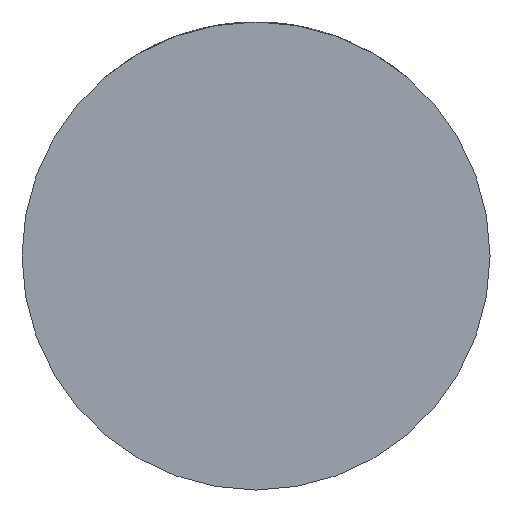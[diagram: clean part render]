
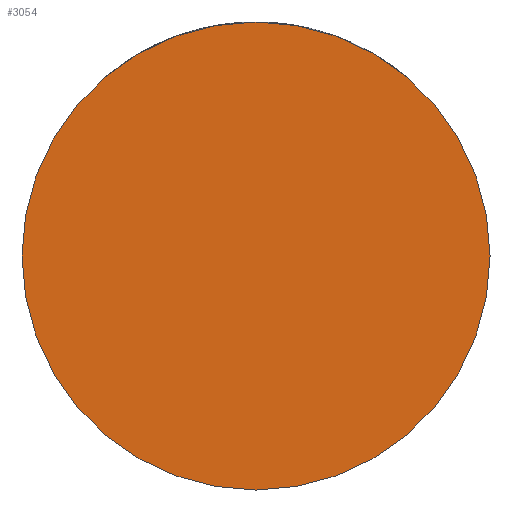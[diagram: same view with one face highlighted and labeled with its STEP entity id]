
A CAD part, front view. The second image highlights one B-rep face of the part: STEP entity #3054.
In plain terms, the highlighted planar face has unit normal (0, -1, 0).
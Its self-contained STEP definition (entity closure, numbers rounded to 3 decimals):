
#8 = PLANE ( 'NONE',  #3587 ) ;
#252 = CARTESIAN_POINT ( 'NONE',  ( 49., -45., 0. ) ) ;
#594 = VERTEX_POINT ( 'NONE', #4443 ) ;
#675 = DIRECTION ( 'NONE',  ( 0., -1., 0. ) ) ;
#982 = DIRECTION ( 'NONE',  ( 0., -1., 0. ) ) ;
#1042 = EDGE_CURVE ( 'NONE', #594, #1148, #3383, .T. ) ;
#1060 = CIRCLE ( 'NONE', #1437, 49. ) ;
#1148 = VERTEX_POINT ( 'NONE', #252 ) ;
#1294 = DIRECTION ( 'NONE',  ( 1., 0., 0. ) ) ;
#1437 = AXIS2_PLACEMENT_3D ( 'NONE', #1711, #2422, #1294 ) ;
#1711 = CARTESIAN_POINT ( 'NONE',  ( 0., -45., 0. ) ) ;
#2422 = DIRECTION ( 'NONE',  ( 0., -1., 0. ) ) ;
#2461 = DIRECTION ( 'NONE',  ( 1., 0., 0. ) ) ;
#2532 = CARTESIAN_POINT ( 'NONE',  ( 0., -45., 0. ) ) ;
#2759 = ORIENTED_EDGE ( 'NONE', *, *, #2963, .T. ) ;
#2817 = EDGE_LOOP ( 'NONE', ( #3531, #2759 ) ) ;
#2963 = EDGE_CURVE ( 'NONE', #1148, #594, #1060, .T. ) ;
#3054 = ADVANCED_FACE ( 'NONE', ( #3224 ), #8, .T. ) ;
#3224 = FACE_OUTER_BOUND ( 'NONE', #2817, .T. ) ;
#3383 = CIRCLE ( 'NONE', #4597, 49. ) ;
#3531 = ORIENTED_EDGE ( 'NONE', *, *, #1042, .T. ) ;
#3587 = AXIS2_PLACEMENT_3D ( 'NONE', #2532, #675, #4242 ) ;
#4213 = CARTESIAN_POINT ( 'NONE',  ( 0., -45., 0. ) ) ;
#4242 = DIRECTION ( 'NONE',  ( 1., 0., 0. ) ) ;
#4443 = CARTESIAN_POINT ( 'NONE',  ( -49., -45., 0. ) ) ;
#4597 = AXIS2_PLACEMENT_3D ( 'NONE', #4213, #982, #2461 ) ;
